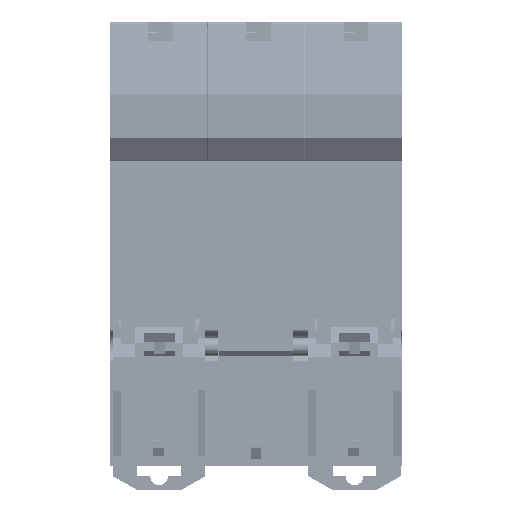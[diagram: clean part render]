
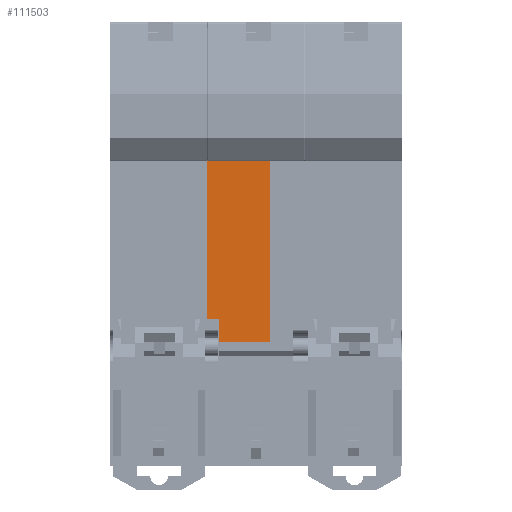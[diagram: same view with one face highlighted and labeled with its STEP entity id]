
A CAD part, left-side view. The second image highlights one B-rep face of the part: STEP entity #111503.
In plain terms, the highlighted planar face has unit normal (-1, 0, 0).
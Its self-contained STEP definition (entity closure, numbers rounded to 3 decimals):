
#41475 = CARTESIAN_POINT ( 'NONE',  ( -2.5, 35.6, 26.9 ) ) ;
#70956 = LINE ( 'NONE', #474060, #132347 ) ;
#86552 = LINE ( 'NONE', #587327, #306681 ) ;
#90023 = CARTESIAN_POINT ( 'NONE',  ( -2.5, 35.6, 58.1 ) ) ;
#91401 = VECTOR ( 'NONE', #508781, 1000. ) ;
#95839 = CARTESIAN_POINT ( 'NONE',  ( -2.5, 24.1, 58.1 ) ) ;
#107688 = EDGE_CURVE ( 'NONE', #268816, #586875, #554682, .T. ) ;
#111503 = ADVANCED_FACE ( 'NONE', ( #538838 ), #529249, .F. ) ;
#111919 = CARTESIAN_POINT ( 'NONE',  ( -2.5, 24.1, 58.1 ) ) ;
#132347 = VECTOR ( 'NONE', #415634, 1000. ) ;
#141668 = DIRECTION ( 'NONE',  ( 0., 0., -1. ) ) ;
#153661 = CARTESIAN_POINT ( 'NONE',  ( -2.5, 35.6, 58.1 ) ) ;
#166634 = VERTEX_POINT ( 'NONE', #153661 ) ;
#173409 = EDGE_CURVE ( 'NONE', #166634, #380675, #86552, .T. ) ;
#187185 = ORIENTED_EDGE ( 'NONE', *, *, #107688, .T. ) ;
#189041 = CARTESIAN_POINT ( 'NONE',  ( -2.5, 33.45, 22.6 ) ) ;
#211778 = VECTOR ( 'NONE', #551464, 1000. ) ;
#233128 = DIRECTION ( 'NONE',  ( 1., 0., 0. ) ) ;
#239394 = CARTESIAN_POINT ( 'NONE',  ( -2.5, 35.6, 26.9 ) ) ;
#263600 = VERTEX_POINT ( 'NONE', #95839 ) ;
#268816 = VERTEX_POINT ( 'NONE', #564500 ) ;
#284291 = EDGE_CURVE ( 'NONE', #586875, #573239, #490851, .T. ) ;
#287860 = ORIENTED_EDGE ( 'NONE', *, *, #360999, .T. ) ;
#292036 = EDGE_CURVE ( 'NONE', #573239, #263600, #359130, .T. ) ;
#295706 = CARTESIAN_POINT ( 'NONE',  ( -2.5, 35.6, 22.6 ) ) ;
#301162 = CARTESIAN_POINT ( 'NONE',  ( -2.5, 33.45, 58.1 ) ) ;
#306681 = VECTOR ( 'NONE', #141668, 1000. ) ;
#319852 = AXIS2_PLACEMENT_3D ( 'NONE', #90023, #233128, #434698 ) ;
#359130 = LINE ( 'NONE', #111919, #91401 ) ;
#360999 = EDGE_CURVE ( 'NONE', #263600, #166634, #70956, .T. ) ;
#380675 = VERTEX_POINT ( 'NONE', #239394 ) ;
#409597 = ORIENTED_EDGE ( 'NONE', *, *, #292036, .T. ) ;
#415634 = DIRECTION ( 'NONE',  ( 0., 1., 0. ) ) ;
#417480 = EDGE_CURVE ( 'NONE', #380675, #268816, #633261, .T. ) ;
#434698 = DIRECTION ( 'NONE',  ( 0., 0., 1. ) ) ;
#442565 = VECTOR ( 'NONE', #526150, 1000. ) ;
#473988 = EDGE_LOOP ( 'NONE', ( #522287, #187185, #474332, #409597, #287860, #513270 ) ) ;
#474060 = CARTESIAN_POINT ( 'NONE',  ( -2.5, 56.7, 58.1 ) ) ;
#474332 = ORIENTED_EDGE ( 'NONE', *, *, #284291, .T. ) ;
#490851 = LINE ( 'NONE', #295706, #582866 ) ;
#494081 = DIRECTION ( 'NONE',  ( 0., -1., 0. ) ) ;
#508781 = DIRECTION ( 'NONE',  ( 0., 0., 1. ) ) ;
#513270 = ORIENTED_EDGE ( 'NONE', *, *, #173409, .T. ) ;
#522287 = ORIENTED_EDGE ( 'NONE', *, *, #417480, .T. ) ;
#526150 = DIRECTION ( 'NONE',  ( 0., -1., 0. ) ) ;
#529249 = PLANE ( 'NONE',  #319852 ) ;
#538838 = FACE_OUTER_BOUND ( 'NONE', #473988, .T. ) ;
#551464 = DIRECTION ( 'NONE',  ( 0., 0., -1. ) ) ;
#554682 = LINE ( 'NONE', #301162, #211778 ) ;
#564500 = CARTESIAN_POINT ( 'NONE',  ( -2.5, 33.45, 26.9 ) ) ;
#573239 = VERTEX_POINT ( 'NONE', #596230 ) ;
#582866 = VECTOR ( 'NONE', #494081, 1000. ) ;
#586875 = VERTEX_POINT ( 'NONE', #189041 ) ;
#587327 = CARTESIAN_POINT ( 'NONE',  ( -2.5, 35.6, 58.1 ) ) ;
#596230 = CARTESIAN_POINT ( 'NONE',  ( -2.5, 24.1, 22.6 ) ) ;
#633261 = LINE ( 'NONE', #41475, #442565 ) ;
